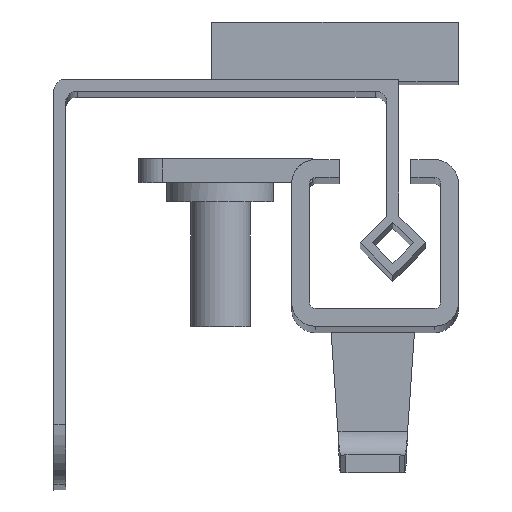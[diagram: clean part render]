
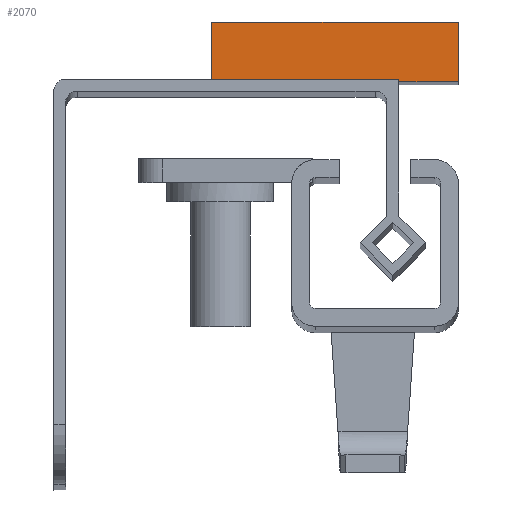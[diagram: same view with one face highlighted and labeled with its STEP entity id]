
A CAD part, top view. The second image highlights one B-rep face of the part: STEP entity #2070.
In plain terms, the highlighted planar face has unit normal (0, 0, 1) as drawn and (1, 0, 0) by its records, which use the part's own axes.
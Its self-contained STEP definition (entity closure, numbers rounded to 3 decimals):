
#314=FACE_OUTER_BOUND('',#434,.T.);
#434=EDGE_LOOP('',(#1596,#1597,#1598,#1599,#1600));
#654=LINE('',#3275,#814);
#655=LINE('',#3277,#815);
#656=LINE('',#3279,#816);
#657=LINE('',#3281,#817);
#658=LINE('',#3282,#818);
#814=VECTOR('',#2639,10.);
#815=VECTOR('',#2640,10.);
#816=VECTOR('',#2641,10.);
#817=VECTOR('',#2642,10.);
#818=VECTOR('',#2643,10.);
#969=VERTEX_POINT('',#3273);
#970=VERTEX_POINT('',#3274);
#971=VERTEX_POINT('',#3276);
#972=VERTEX_POINT('',#3278);
#973=VERTEX_POINT('',#3280);
#1202=EDGE_CURVE('',#969,#970,#654,.T.);
#1203=EDGE_CURVE('',#969,#971,#655,.T.);
#1204=EDGE_CURVE('',#972,#971,#656,.T.);
#1205=EDGE_CURVE('',#973,#972,#657,.T.);
#1206=EDGE_CURVE('',#970,#973,#658,.T.);
#1596=ORIENTED_EDGE('',*,*,#1202,.F.);
#1597=ORIENTED_EDGE('',*,*,#1203,.T.);
#1598=ORIENTED_EDGE('',*,*,#1204,.F.);
#1599=ORIENTED_EDGE('',*,*,#1205,.F.);
#1600=ORIENTED_EDGE('',*,*,#1206,.F.);
#1881=PLANE('',#2243);
#2070=ADVANCED_FACE('',(#314),#1881,.T.);
#2243=AXIS2_PLACEMENT_3D('',#3272,#2637,#2638);
#2637=DIRECTION('center_axis',(1.,0.,0.));
#2638=DIRECTION('ref_axis',(0.,0.,1.));
#2639=DIRECTION('',(0.,0.,-1.));
#2640=DIRECTION('',(0.,-1.,0.));
#2641=DIRECTION('',(0.,0.,1.));
#2642=DIRECTION('',(0.,-1.,0.));
#2643=DIRECTION('',(0.,0.,-1.));
#3272=CARTESIAN_POINT('Origin',(143.981,-129.903,13.279));
#3273=CARTESIAN_POINT('',(143.981,-129.903,34.));
#3274=CARTESIAN_POINT('',(143.981,-129.903,29.));
#3275=CARTESIAN_POINT('',(143.981,-129.903,34.));
#3276=CARTESIAN_POINT('',(143.981,-134.903,34.));
#3277=CARTESIAN_POINT('',(143.981,-129.903,34.));
#3278=CARTESIAN_POINT('',(143.981,-134.903,13.279));
#3279=CARTESIAN_POINT('',(143.981,-134.903,34.));
#3280=CARTESIAN_POINT('',(143.981,-129.903,13.279));
#3281=CARTESIAN_POINT('',(143.981,-129.903,13.279));
#3282=CARTESIAN_POINT('',(143.981,-129.903,6.639));
